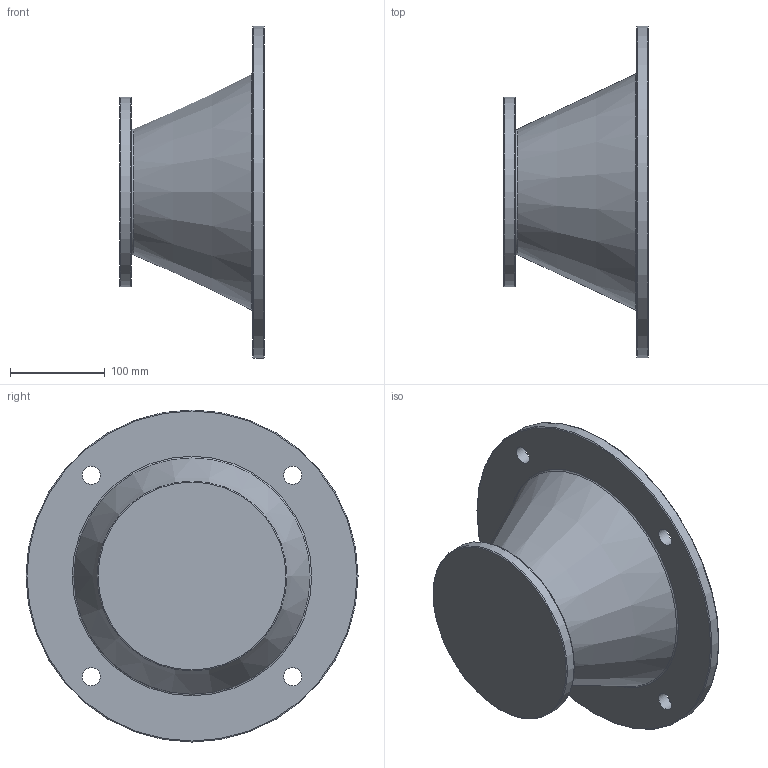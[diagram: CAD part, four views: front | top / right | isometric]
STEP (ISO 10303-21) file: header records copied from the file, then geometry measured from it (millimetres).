
FILE_DESCRIPTION((''),'2;1');
FILE_NAME('D:\PAWEŁ\ZLECENIA\2011 DualSystem\Przekładnie DR\DR70\STEP\160_B5_L152,5.stp','2012-06-11T12:11:32',('admin'),(''),'Autodesk Inventor 2009','Autodesk Inventor 2009','');
FILE_SCHEMA(('AUTOMOTIVE_DESIGN { 1 0 10303 214 1 1 1 1 }'));
Length unit declared in the file: millimetre
Products named in the file (1): 160_B5_L152,5
Bounding box: 152.5 x 350 x 350 mm (x, y, z)
Volume: 1777741.2 mm3; surface area: 386637.1 mm2
Topology: 1 solids, 1 shells, 29 faces, 56 edges, 35 vertices
Faces by surface type: plane 11, bspline 6, cylinder 5, torus 5, cone 2
Full cylindrical faces by diameter (mm): 68 x1, 200 x1, 250 x1, 350 x1
Entity records: 875 total; most frequent: CARTESIAN_POINT 278, DIRECTION 116, ORIENTED_EDGE 78, EDGE_LOOP 60, AXIS2_PLACEMENT_3D 53, EDGE_CURVE 39, VERTEX_POINT 35, FACE_BOUND 31
